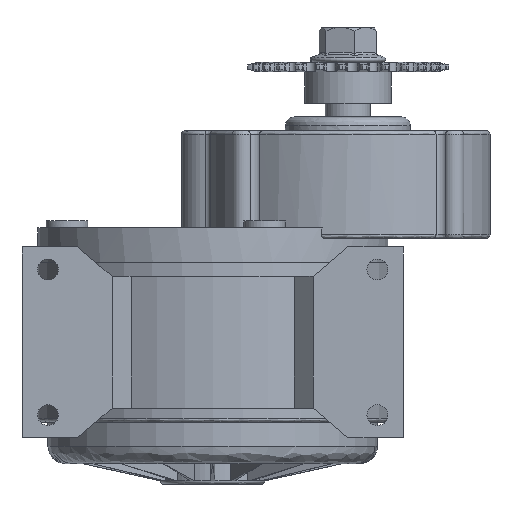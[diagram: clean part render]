
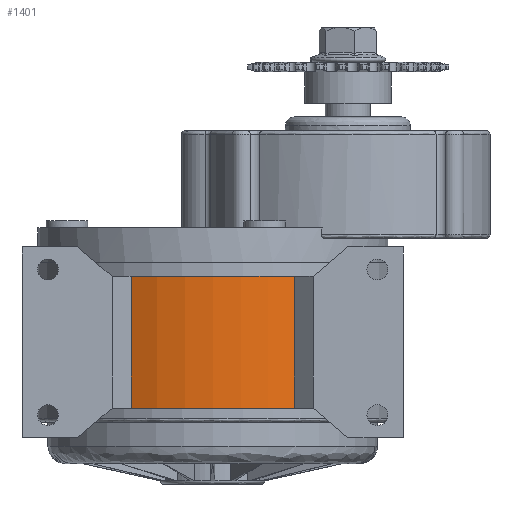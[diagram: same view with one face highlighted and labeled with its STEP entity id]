
A CAD part, front view. The second image highlights one B-rep face of the part: STEP entity #1401.
In plain terms, the highlighted cylindrical face has radius 53.423 mm (diameter 106.846 mm), a partial arc.
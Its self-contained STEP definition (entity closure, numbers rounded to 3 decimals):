
#825 = ORIENTED_EDGE ( 'NONE', *, *, #17505, .F. ) ;
#1083 = ORIENTED_EDGE ( 'NONE', *, *, #15732, .F. ) ;
#1115 = ORIENTED_EDGE ( 'NONE', *, *, #16488, .T. ) ;
#1285 = ORIENTED_EDGE ( 'NONE', *, *, #15905, .T. ) ;
#1401 = ADVANCED_FACE ( 'NONE', ( #20883 ), #21395, .T. ) ;
#3062 = AXIS2_PLACEMENT_3D ( 'NONE', #6855, #6856, #6857 ) ;
#3207 = AXIS2_PLACEMENT_3D ( 'NONE', #9079, #9080, #9081 ) ;
#4124 = LINE ( 'NONE', #19556, #4131 ) ;
#4131 = VECTOR ( 'NONE', #19561, 1000. ) ;
#4736 = CIRCLE ( 'NONE', #3062, 53.423 ) ;
#5241 = CIRCLE ( 'NONE', #3207, 53.423 ) ;
#6855 = CARTESIAN_POINT ( 'NONE',  ( 0., 0., -45.5 ) ) ;
#6856 = DIRECTION ( 'NONE',  ( 0., 0., 1. ) ) ;
#6857 = DIRECTION ( 'NONE',  ( -1., 0., 0. ) ) ;
#9079 = CARTESIAN_POINT ( 'NONE',  ( 0., 0., -7.5 ) ) ;
#9080 = DIRECTION ( 'NONE',  ( 0., 0., 1. ) ) ;
#9081 = DIRECTION ( 'NONE',  ( -1., 0., 0. ) ) ;
#13304 = CARTESIAN_POINT ( 'NONE',  ( -17.27, 50.555, -45.5 ) ) ;
#13348 = CARTESIAN_POINT ( 'NONE',  ( -50.555, 17.27, -7.5 ) ) ;
#14075 = CARTESIAN_POINT ( 'NONE',  ( -50.555, 17.27, -45.5 ) ) ;
#14299 = CARTESIAN_POINT ( 'NONE',  ( -17.27, 50.555, -7.5 ) ) ;
#15732 = EDGE_CURVE ( 'NONE', #20739, #23030, #18095, .T. ) ;
#15905 = EDGE_CURVE ( 'NONE', #23396, #20337, #4124, .T. ) ;
#16488 = EDGE_CURVE ( 'NONE', #20337, #23030, #4736, .T. ) ;
#17505 = EDGE_CURVE ( 'NONE', #23396, #20739, #5241, .T. ) ;
#18095 = LINE ( 'NONE', #18983, #18172 ) ;
#18172 = VECTOR ( 'NONE', #18989, 1000. ) ;
#18713 = AXIS2_PLACEMENT_3D ( 'NONE', #21888, #21887, #21880 ) ;
#18983 = CARTESIAN_POINT ( 'NONE',  ( -50.555, 17.27, -7.5 ) ) ;
#18989 = DIRECTION ( 'NONE',  ( 0., 0., -1. ) ) ;
#19556 = CARTESIAN_POINT ( 'NONE',  ( -17.27, 50.555, -7.5 ) ) ;
#19561 = DIRECTION ( 'NONE',  ( 0., 0., -1. ) ) ;
#20337 = VERTEX_POINT ( 'NONE', #13304 ) ;
#20739 = VERTEX_POINT ( 'NONE', #13348 ) ;
#20883 = FACE_OUTER_BOUND ( 'NONE', #22940, .T. ) ;
#21395 = CYLINDRICAL_SURFACE ( 'NONE', #18713, 53.423 ) ;
#21880 = DIRECTION ( 'NONE',  ( -1., 0., 0. ) ) ;
#21887 = DIRECTION ( 'NONE',  ( 0., 0., -1. ) ) ;
#21888 = CARTESIAN_POINT ( 'NONE',  ( 0., 0., -7.5 ) ) ;
#22940 = EDGE_LOOP ( 'NONE', ( #1115, #1083, #825, #1285 ) ) ;
#23030 = VERTEX_POINT ( 'NONE', #14075 ) ;
#23396 = VERTEX_POINT ( 'NONE', #14299 ) ;
